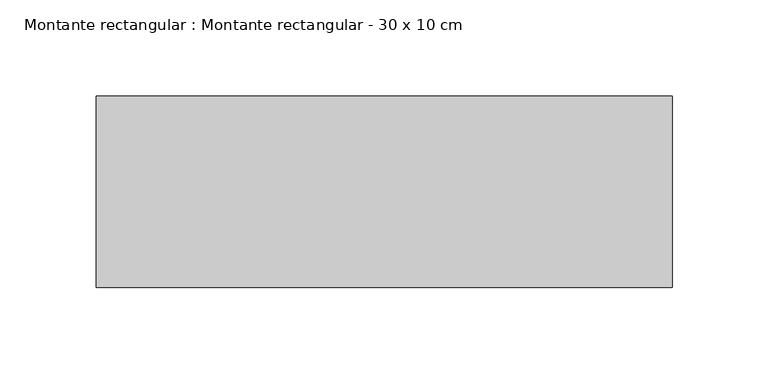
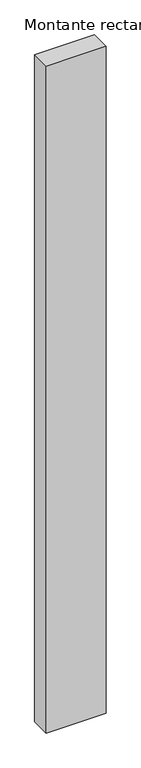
"""IFC4 building model written with IfcOpenShell, lengths in millimetres: member geometry, Montante rectangular : Montante rectangular - 30 x 10 cm."""

from ifc_helpers import new_model, si_unit, frame, origin, place, context, project, spatial, polyline, outline, extrude, source, transform, mapped, element, save


def montante_rectangular_montante_rectangular_30_x_10_cm_c309958c(model_context):
    return source(origin(), model_context, "Body", "SweptSolid", [
        extrude(outline(polyline([(-300.0, 50.0), (0.0, 50.0), (0.0, -50.0), (-300.0, -50.0), (-300.0, 50.0)])), frame((0.0, 0.0, -3530.0), z_axis=(0.0, 0.0, 1.0), x_axis=(1.0, 0.0, 0.0)), (0.0, 0.0, 1.0), 3530.0),
    ])


if __name__ == "__main__":
    model = new_model("IFC4")
    model_context = context("Model", 3, world=origin())
    ifc_project = project(units=[si_unit("LENGTHUNIT", "METRE", prefix="MILLI")], contexts=[model_context])
    site = spatial("IfcSite", under=ifc_project)
    building = spatial("IfcBuilding", under=site)
    placement = place(None, origin())
    montante_rectangular_montante_rectangular_30_x_10_cm_shape = montante_rectangular_montante_rectangular_30_x_10_cm_c309958c(model_context)
    element("IfcMember", 1, ObjectType="Montante rectangular : Montante rectangular - 30 x 10 cm", at=placement, inside=building, context=model_context, shape_type="MappedRepresentation", body=[
        mapped(montante_rectangular_montante_rectangular_30_x_10_cm_shape, transform((0.0, 0.0, 0.0), x_axis=(1.0, 0.0, 0.0), y_axis=(0.0, 1.0, 0.0), z_axis=(0.0, 0.0, 1.0))),
    ])
    save(model, "model.ifc")
